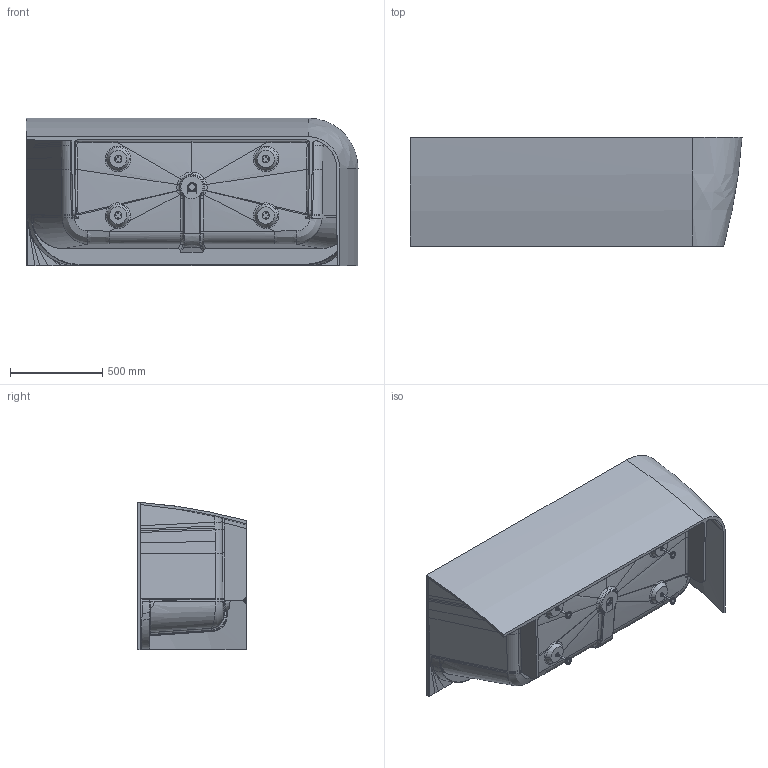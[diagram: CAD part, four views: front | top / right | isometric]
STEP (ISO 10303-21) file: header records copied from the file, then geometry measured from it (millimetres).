
FILE_DESCRIPTION((''),'2;1');
FILE_NAME('CD003455_ASM','2026-07-27T15:56:10',('Presotto.Paolo'),('Ronal group'),'CREO PARAMETRIC BY PTC INC, 2024401','CREO PARAMETRIC BY PTC INC, 2024401','');
FILE_SCHEMA(('CONFIG_CONTROL_DESIGN'));
Length unit declared in the file: millimetre
Products named in the file (12): PILETTA_1_1_1_1_2; VASCA_DA_BAGNO_SINISTRA_1800__1; VASCA_DA_BAGNO_SINISTRA_1800__2; VASCA_DA_BAGNO_SINISTRA_1800__3; VASCA_DA_BAGNO_SINISTRA_1800__4; VASCA_DA_BAGNO_SINISTRA_1800_11_ASM; PIEDINO_130MM_1_1_2; DADO_EF_DB_M10_ZN_UNI6923_1_1_2; PIEDINO_BULLONE_D130_H95_1_AS_2_ASM; PIEDINO_BULLONE_D130_H95_ASM__1_ASM; ASS_ANTIGUA_SX_ASM_1_1_ASM; CD003455_ASM
Assembly tree (15 placements, depth 5):
  CD003455_ASM
    ASS_ANTIGUA_SX_ASM_1_1_ASM
      PILETTA_1_1_1_1_2
      VASCA_DA_BAGNO_SINISTRA_1800_11_ASM
        VASCA_DA_BAGNO_SINISTRA_1800__1
        VASCA_DA_BAGNO_SINISTRA_1800__2
        VASCA_DA_BAGNO_SINISTRA_1800__3
        VASCA_DA_BAGNO_SINISTRA_1800__4
      PIEDINO_BULLONE_D130_H95_ASM__1_ASM  x4
        PIEDINO_BULLONE_D130_H95_1_AS_2_ASM
          PIEDINO_130MM_1_1_2
          DADO_EF_DB_M10_ZN_UNI6923_1_1_2  x2
Bounding box: 1800 x 591 x 800 mm (x, y, z)
Volume: 130216.6 mm3; surface area: 7495875.1 mm2
Topology: 17 solids, 20 shells, 1100 faces, 3036 edges, 1982 vertices
Faces by surface type: cylinder 432, bspline 297, plane 194, cone 118, torus 40, sphere 11, extrusion 7, revolution 1
Entity records: 38501 total; most frequent: CARTESIAN_POINT 26853, ORIENTED_EDGE 2741, DIRECTION 1756, EDGE_CURVE 1404, VERTEX_POINT 882, B_SPLINE_CURVE_WITH_KNOTS 728, AXIS2_PLACEMENT_3D 686, EDGE_LOOP 572
